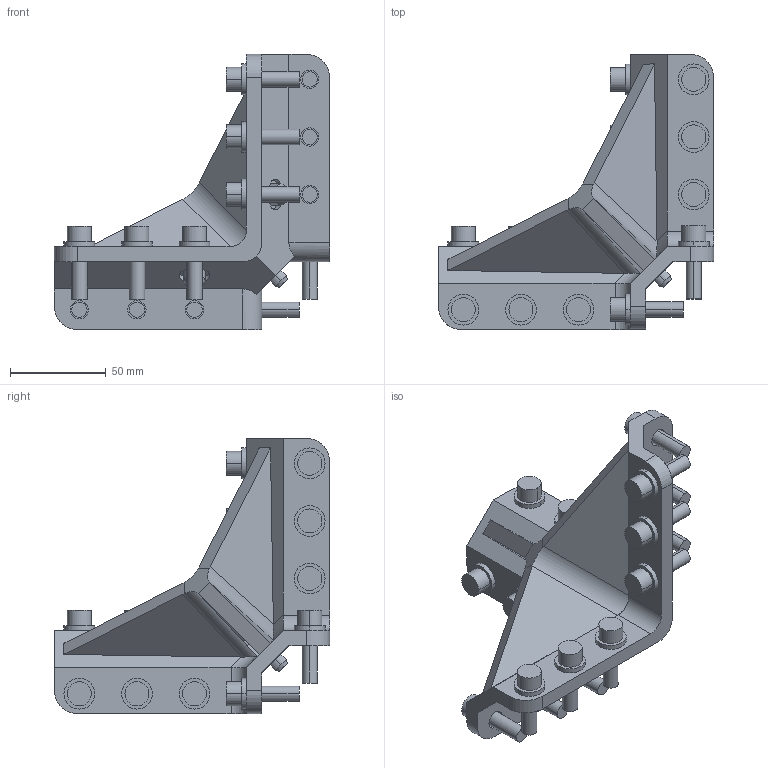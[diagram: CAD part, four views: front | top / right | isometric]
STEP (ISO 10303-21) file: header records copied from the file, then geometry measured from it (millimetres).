
FILE_DESCRIPTION(('STEP AP214'),'1');
FILE_NAME('EGT091_1711258_3FACH_SW50_ECKVERBINDUNG.CATPart.stp','2015-09-14T13:07:40',('3D-Tool'),(' '),'Spatial InterOp 3D',' ',' ');
FILE_SCHEMA(('automotive_design'));
Length unit declared in the file: millimetre
Products named in the file (22): EGT091_1711258_3FACH_SW50_ECKVERBINDUNG|EGT091_3FACH_SW50_ECKVERBINDUNG|Bohrbearbeitung; 1; 2; 3; 4; 5; 6; 7; 8; 9; 10; 11; 12; 13; 14; 15; 16; 17; 18; EGT091_1711258_3FACH_SW50_ECKVERBINDUNG|EGT212_Zentrierstift_1|Chamfer.1; EGT091_1711258_3FACH_SW50_ECKVERBINDUNG|EGT212_Zentrierstift_2|Chamfer.2; EGT091_1711258_3FACH_SW50_ECKVERBINDUNG|EGT212_Zentrierstift_3|Chamfer.3
Bounding box: 143.36 x 143.36 x 143.36 mm (x, y, z)
Volume: 284945.8 mm3; surface area: 93551.9 mm2
Topology: 22 solids, 22 shells, 381 faces, 873 edges, 578 vertices
Faces by surface type: cylinder 239, plane 136, cone 6
Entity records: 14813 total; most frequent: CARTESIAN_POINT 2177, DIRECTION 2090, ORIENTED_EDGE 1746, EDGE_CURVE 873, AXIS2_PLACEMENT_3D 867, VERTEX_POINT 578, EDGE_LOOP 465, CIRCLE 464
